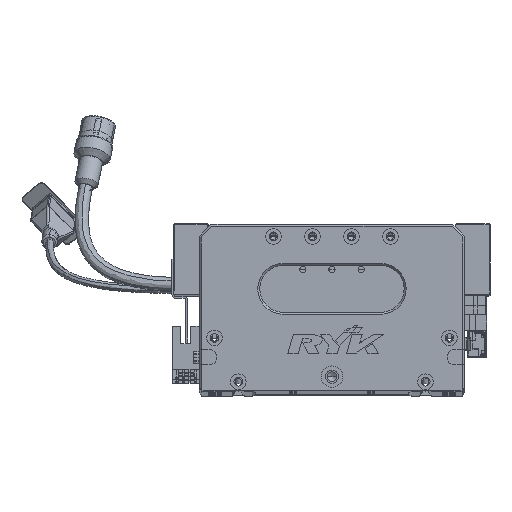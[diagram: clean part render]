
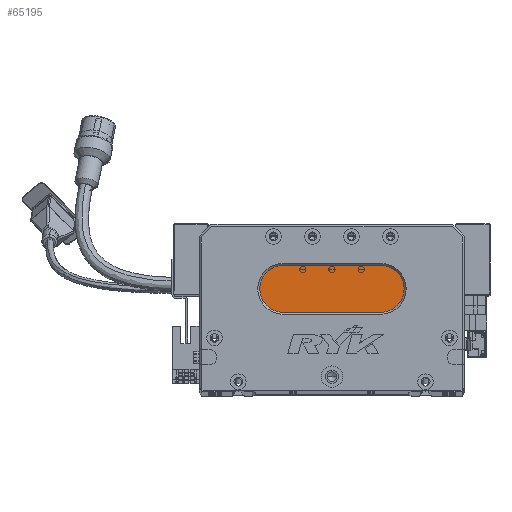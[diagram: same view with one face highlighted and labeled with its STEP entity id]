
A CAD part, top view. The second image highlights one B-rep face of the part: STEP entity #65195.
In plain terms, the highlighted planar face has unit normal (0, 0, 1) as drawn and (0, 0, -1) by its records, which use the part's own axes.
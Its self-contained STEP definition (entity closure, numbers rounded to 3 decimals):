
#1059 = ORIENTED_EDGE ( 'NONE', *, *, #71814, .T. ) ;
#9668 = ORIENTED_EDGE ( 'NONE', *, *, #87609, .T. ) ;
#13038 = CIRCLE ( 'NONE', #17597, 12. ) ;
#17597 = AXIS2_PLACEMENT_3D ( 'NONE', #61237, #46284, #69697 ) ;
#24759 = CARTESIAN_POINT ( 'NONE',  ( 93., 52., 13. ) ) ;
#33000 = VERTEX_POINT ( 'NONE', #64638 ) ;
#33547 = CARTESIAN_POINT ( 'NONE',  ( 43., 40., 13. ) ) ;
#33686 = DIRECTION ( 'NONE',  ( -1., 0., 0. ) ) ;
#40918 = VERTEX_POINT ( 'NONE', #33547 ) ;
#41030 = CARTESIAN_POINT ( 'NONE',  ( 43., 64., 13. ) ) ;
#41696 = LINE ( 'NONE', #87760, #84223 ) ;
#42967 = LINE ( 'NONE', #77880, #72081 ) ;
#43041 = DIRECTION ( 'NONE',  ( 0., 0., -1. ) ) ;
#46284 = DIRECTION ( 'NONE',  ( 0., 0., -1. ) ) ;
#49183 = CARTESIAN_POINT ( 'NONE',  ( 43., 52., 13. ) ) ;
#49646 = CARTESIAN_POINT ( 'NONE',  ( 31., 52., 13. ) ) ;
#49669 = EDGE_CURVE ( 'NONE', #40918, #59203, #70154, .T. ) ;
#50549 = ORIENTED_EDGE ( 'NONE', *, *, #51859, .T. ) ;
#51859 = EDGE_CURVE ( 'NONE', #67336, #33000, #79538, .T. ) ;
#56281 = ORIENTED_EDGE ( 'NONE', *, *, #49669, .T. ) ;
#59073 = FACE_OUTER_BOUND ( 'NONE', #64506, .T. ) ;
#59203 = VERTEX_POINT ( 'NONE', #49646 ) ;
#61237 = CARTESIAN_POINT ( 'NONE',  ( 43., 52., 13. ) ) ;
#64359 = ORIENTED_EDGE ( 'NONE', *, *, #75591, .T. ) ;
#64506 = EDGE_LOOP ( 'NONE', ( #50549, #9668, #56281, #64359, #1059 ) ) ;
#64638 = CARTESIAN_POINT ( 'NONE',  ( 93., 40., 13. ) ) ;
#65195 = ADVANCED_FACE ( 'NONE', ( #59073 ), #97726, .T. ) ;
#66117 = CARTESIAN_POINT ( 'NONE',  ( 93., 52., 13. ) ) ;
#67336 = VERTEX_POINT ( 'NONE', #67458 ) ;
#67458 = CARTESIAN_POINT ( 'NONE',  ( 93., 64., 13. ) ) ;
#69697 = DIRECTION ( 'NONE',  ( -1., 0., 0. ) ) ;
#70154 = CIRCLE ( 'NONE', #83760, 12. ) ;
#71567 = DIRECTION ( 'NONE',  ( 0., 0., -1. ) ) ;
#71624 = DIRECTION ( 'NONE',  ( -1., 0., 0. ) ) ;
#71814 = EDGE_CURVE ( 'NONE', #100501, #67336, #42967, .T. ) ;
#72081 = VECTOR ( 'NONE', #77095, 1000. ) ;
#73884 = DIRECTION ( 'NONE',  ( -1., 0., 0. ) ) ;
#75591 = EDGE_CURVE ( 'NONE', #59203, #100501, #13038, .T. ) ;
#77095 = DIRECTION ( 'NONE',  ( 1., 0., 0. ) ) ;
#77880 = CARTESIAN_POINT ( 'NONE',  ( 93., 64., 13. ) ) ;
#79538 = CIRCLE ( 'NONE', #99549, 12. ) ;
#83760 = AXIS2_PLACEMENT_3D ( 'NONE', #49183, #71567, #94717 ) ;
#84223 = VECTOR ( 'NONE', #33686, 1000. ) ;
#86206 = AXIS2_PLACEMENT_3D ( 'NONE', #66117, #43041, #73884 ) ;
#87609 = EDGE_CURVE ( 'NONE', #33000, #40918, #41696, .T. ) ;
#87760 = CARTESIAN_POINT ( 'NONE',  ( 93., 40., 13. ) ) ;
#94717 = DIRECTION ( 'NONE',  ( -1., 0., 0. ) ) ;
#94774 = DIRECTION ( 'NONE',  ( 0., 0., -1. ) ) ;
#97726 = PLANE ( 'NONE',  #86206 ) ;
#99549 = AXIS2_PLACEMENT_3D ( 'NONE', #24759, #94774, #71624 ) ;
#100501 = VERTEX_POINT ( 'NONE', #41030 ) ;
